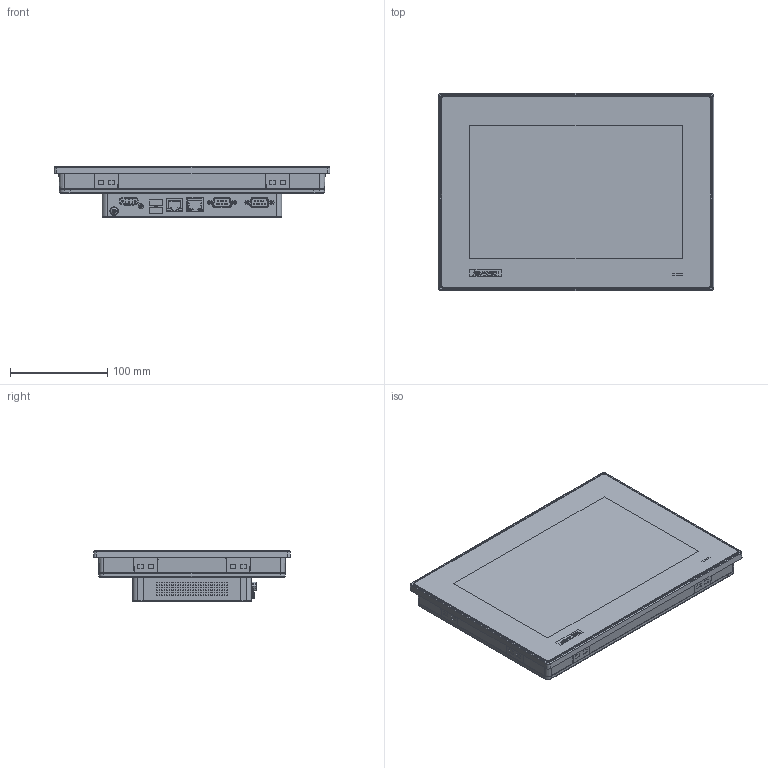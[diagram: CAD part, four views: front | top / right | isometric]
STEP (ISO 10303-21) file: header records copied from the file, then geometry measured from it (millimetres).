
FILE_DESCRIPTION (( 'STEP AP214' ), '1' );
FILE_NAME ('0-TPC-110WP-wo fill data.STEP', '2022-04-28T08:40:42', ( '' ), ( '' ), 'SwSTEP 2.0', 'SolidWorks 2020', '' );
FILE_SCHEMA (( 'AUTOMOTIVE_DESIGN' ));
Length unit declared in the file: millimetre
Products named in the file (1): 0-TPC-110WP-wo fill data
Bounding box: 283.1 x 202.3 x 52.47 mm (x, y, z)
Surface area: 443423.6 mm2 (no closed solid volume)
Topology: 0 solids, 73 shells, 4075 faces, 10473 edges, 6821 vertices
Faces by surface type: plane 3056, cylinder 714, bspline 149, cone 87, torus 61, sphere 8
Full cylindrical faces by diameter (mm): 1 x18, 1.3 x2, 1.8 x2, 2.05 x2, 2.261 x8, 2.459 x1, 2.82 x4, 3 x18, 3.5 x4, 4 x3, 4.5 x4, 5.3 x1, 5.4 x11, 7 x1, 8.8 x1
Entity records: 175910 total; most frequent: CARTESIAN_POINT 35630, ORIENTED_EDGE 20454, DIRECTION 17470, EDGE_CURVE 10237, VECTOR 7426, LINE 7426, VERTEX_POINT 6751, AXIS2_PLACEMENT_3D 5022
